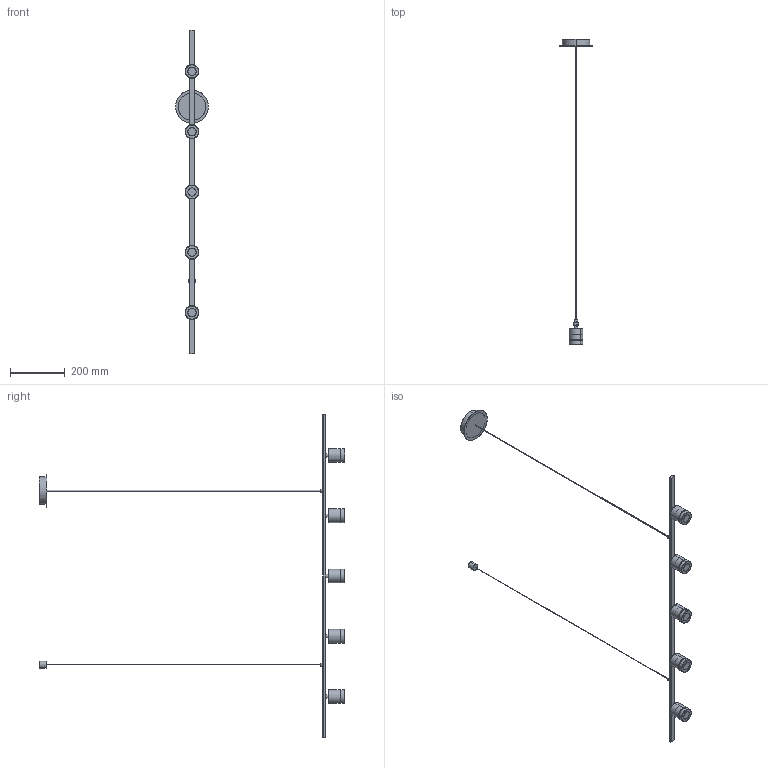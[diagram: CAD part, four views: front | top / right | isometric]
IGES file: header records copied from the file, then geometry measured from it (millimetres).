
Start section: SolidWorks IGES file using analytic representation for surfaces
Global section: file name: C:\Users\Agustin\Desktop\ENERO 2025\2D-3D\2D-3D TEA_1337\TEA_C1337_5\TEA_C1337_5.IGS; native system: SolidWorks 2018; preprocessor: SolidWorks 2018; author: Agustin; date: 250117.154234; units: millimetre
Bounding box: 120 x 1115.2 x 1180 mm (x, y, z)
Surface area: 255397.4 mm2 (no closed solid volume)
Topology: 0 solids, 0 shells, 186 faces, 3923 edges, 3914 vertices
Faces by surface type: bspline 102, revolution 84
